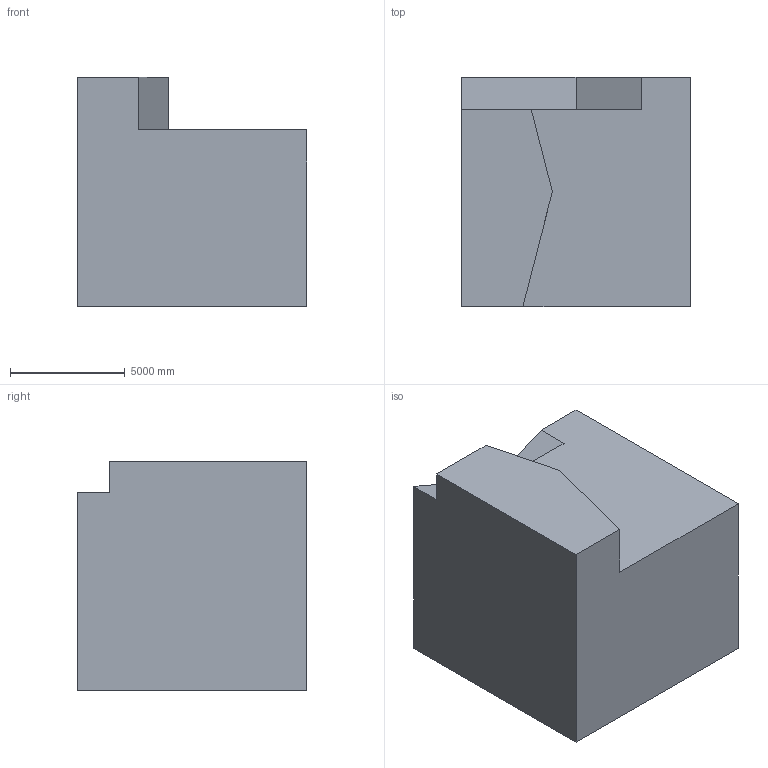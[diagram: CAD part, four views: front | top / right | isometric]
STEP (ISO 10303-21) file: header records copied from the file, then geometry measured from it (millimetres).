
FILE_DESCRIPTION (( 'STEP AP203' ), '1' );
FILE_NAME ('45.STEP', '2022-07-28T13:28:58', ( 'user' ), ( '' ), 'SwSTEP 2.0', 'SolidWorks 2021', '' );
FILE_SCHEMA (( 'CONFIG_CONTROL_DESIGN' ));
Length unit declared in the file: centimetre
Products named in the file (1): 45
Bounding box: 10000 x 10000 x 10000 mm (x, y, z)
Volume: 834256719253.6 mm3; surface area: 563757941.5 mm2
Topology: 1 solids, 1 shells, 12 faces, 30 edges, 20 vertices
Faces by surface type: plane 12
Entity records: 431 total; most frequent: CARTESIAN_POINT 63, ORIENTED_EDGE 60, DIRECTION 56, VECTOR 30, EDGE_CURVE 30, LINE 30, VERTEX_POINT 20, AXIS2_PLACEMENT_3D 13
